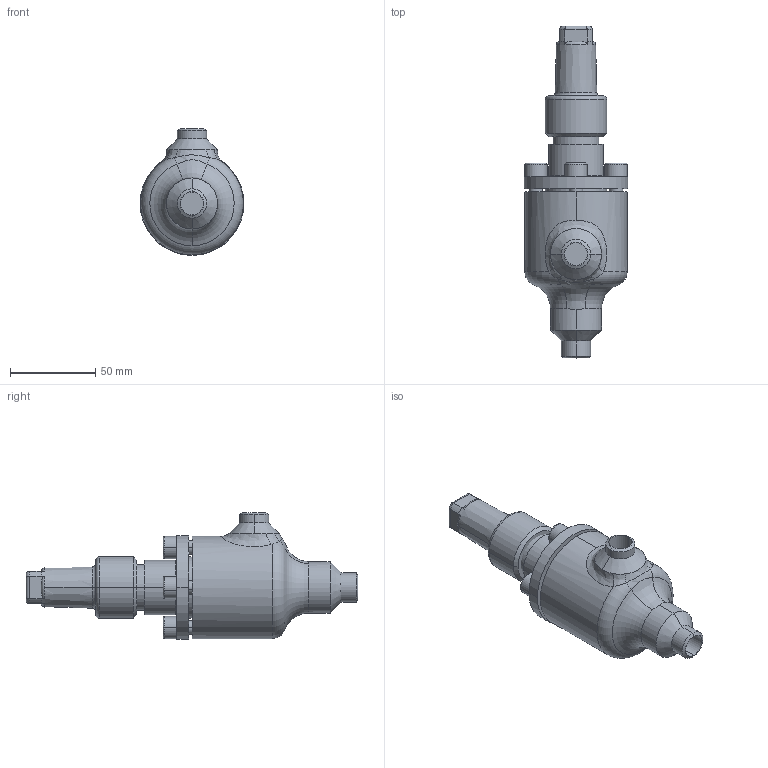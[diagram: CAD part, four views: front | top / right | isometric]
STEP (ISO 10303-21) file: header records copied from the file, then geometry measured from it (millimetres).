
FILE_DESCRIPTION (( 'STEP AP214' ), '1' );
FILE_NAME ('AVB16400D08-DN010_R1_PS40.STEP', '2006-04-27T12:24:25', ( 'Herr Grams' ), ( 'AWP GmbH' ), 'SwSTEP 2.0', 'SolidWorks 2002296', '' );
FILE_SCHEMA (( 'AUTOMOTIVE_DESIGN' ));
Length unit declared in the file: millimetre
Products named in the file (6): AVB16400D08-DN010_R1_PS40; Kappe96300E10_DN6-20_Standard; AVB16300K10_Deck+Schr-DN10-20_Standard; Deckel16300K10-DN10-20_Standard; Zylinderschraube-DIN912_M 8x 16; Gehäuse16400-DN010_Standard
Assembly tree (8 placements, depth 3):
  AVB16400D08-DN010_R1_PS40
    Kappe96300E10_DN6-20_Standard
    Gehäuse16400-DN010_Standard
    AVB16300K10_Deck+Schr-DN10-20_Standard
      Zylinderschraube-DIN912_M 8x 16  x4
      Deckel16300K10-DN10-20_Standard
Bounding box: 61 x 195 x 74.5 mm (x, y, z)
Volume: 254429.4 mm3; surface area: 50989.3 mm2
Topology: 7 solids, 7 shells, 213 faces, 459 edges, 286 vertices
Faces by surface type: cylinder 82, plane 73, cone 26, torus 26, bspline 6
Entity records: 14678 total; most frequent: CARTESIAN_POINT 10484, DIRECTION 836, ORIENTED_EDGE 690, AXIS2_PLACEMENT_3D 358, EDGE_CURVE 345, VERTEX_POINT 214, CIRCLE 193, EDGE_LOOP 187
